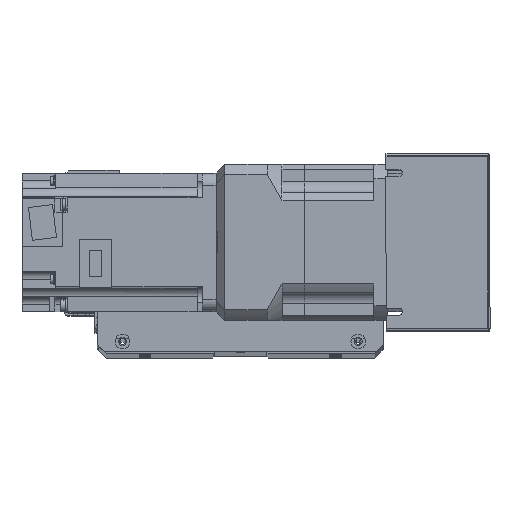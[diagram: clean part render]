
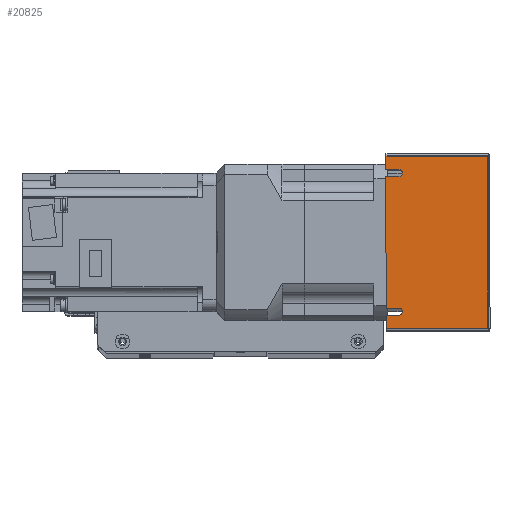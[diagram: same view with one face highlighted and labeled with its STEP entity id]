
A CAD part, top view. The second image highlights one B-rep face of the part: STEP entity #20825.
In plain terms, the highlighted planar face has unit normal (0, 0, 1) as drawn and (-1, 0, 0) by its records, which use the part's own axes.
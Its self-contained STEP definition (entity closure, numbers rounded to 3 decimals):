
#554=PLANE('',#22673);
#1642=LINE('',#33058,#3302);
#1648=LINE('',#33072,#3308);
#1660=LINE('',#33099,#3320);
#1670=LINE('',#33121,#3330);
#1678=LINE('',#33140,#3338);
#1679=LINE('',#33143,#3339);
#1680=LINE('',#33145,#3340);
#1681=LINE('',#33147,#3341);
#1682=LINE('',#33149,#3342);
#1683=LINE('',#33150,#3343);
#3302=VECTOR('',#26895,10.);
#3308=VECTOR('',#26905,10.);
#3320=VECTOR('',#26923,10.);
#3330=VECTOR('',#26937,10.);
#3338=VECTOR('',#26959,10.);
#3339=VECTOR('',#26962,10.);
#3340=VECTOR('',#26963,10.);
#3341=VECTOR('',#26964,10.);
#3342=VECTOR('',#26965,10.);
#3343=VECTOR('',#26966,10.);
#5356=FACE_OUTER_BOUND('',#6816,.T.);
#6816=EDGE_LOOP('',(#16208,#16209,#16210,#16211,#16212,#16213,#16214,#16215,
#16216,#16217,#16218,#16219));
#8258=CIRCLE('',#22669,2.);
#8261=CIRCLE('',#22674,2.);
#9699=VERTEX_POINT('',#33055);
#9700=VERTEX_POINT('',#33057);
#9705=VERTEX_POINT('',#33070);
#9706=VERTEX_POINT('',#33071);
#9717=VERTEX_POINT('',#33097);
#9718=VERTEX_POINT('',#33098);
#9727=VERTEX_POINT('',#33118);
#9728=VERTEX_POINT('',#33120);
#9733=VERTEX_POINT('',#33142);
#9734=VERTEX_POINT('',#33144);
#9735=VERTEX_POINT('',#33146);
#9736=VERTEX_POINT('',#33148);
#12055=EDGE_CURVE('',#9699,#9700,#1642,.T.);
#12061=EDGE_CURVE('',#9705,#9706,#1648,.T.);
#12073=EDGE_CURVE('',#9717,#9718,#1660,.T.);
#12083=EDGE_CURVE('',#9727,#9728,#1670,.T.);
#12086=EDGE_CURVE('',#9706,#9699,#8258,.T.);
#12095=EDGE_CURVE('',#9705,#9728,#1678,.T.);
#12096=EDGE_CURVE('',#9718,#9727,#8261,.T.);
#12097=EDGE_CURVE('',#9717,#9733,#1679,.T.);
#12098=EDGE_CURVE('',#9733,#9734,#1680,.T.);
#12099=EDGE_CURVE('',#9734,#9735,#1681,.T.);
#12100=EDGE_CURVE('',#9735,#9736,#1682,.T.);
#12101=EDGE_CURVE('',#9736,#9700,#1683,.T.);
#16208=ORIENTED_EDGE('',*,*,#12055,.F.);
#16209=ORIENTED_EDGE('',*,*,#12086,.F.);
#16210=ORIENTED_EDGE('',*,*,#12061,.F.);
#16211=ORIENTED_EDGE('',*,*,#12095,.T.);
#16212=ORIENTED_EDGE('',*,*,#12083,.F.);
#16213=ORIENTED_EDGE('',*,*,#12096,.F.);
#16214=ORIENTED_EDGE('',*,*,#12073,.F.);
#16215=ORIENTED_EDGE('',*,*,#12097,.T.);
#16216=ORIENTED_EDGE('',*,*,#12098,.T.);
#16217=ORIENTED_EDGE('',*,*,#12099,.T.);
#16218=ORIENTED_EDGE('',*,*,#12100,.T.);
#16219=ORIENTED_EDGE('',*,*,#12101,.T.);
#20825=ADVANCED_FACE('',(#5356),#554,.F.);
#22669=AXIS2_PLACEMENT_3D('',#33125,#26943,#26944);
#22673=AXIS2_PLACEMENT_3D('',#33139,#26957,#26958);
#22674=AXIS2_PLACEMENT_3D('',#33141,#26960,#26961);
#26895=DIRECTION('',(0.,0.,-1.));
#26905=DIRECTION('',(0.,0.,1.));
#26923=DIRECTION('',(0.,0.,1.));
#26937=DIRECTION('',(0.,0.,-1.));
#26943=DIRECTION('center_axis',(-1.,0.,0.));
#26944=DIRECTION('ref_axis',(0.,0.,1.));
#26957=DIRECTION('center_axis',(1.,0.,0.));
#26958=DIRECTION('ref_axis',(0.,-1.,0.));
#26959=DIRECTION('',(0.,-1.,0.));
#26960=DIRECTION('center_axis',(-1.,0.,0.));
#26961=DIRECTION('ref_axis',(0.,0.,1.));
#26962=DIRECTION('',(0.,-1.,0.));
#26963=DIRECTION('',(0.,0.,1.));
#26964=DIRECTION('',(0.,1.,0.));
#26965=DIRECTION('',(0.,0.,-1.));
#26966=DIRECTION('',(0.,-1.,0.));
#33055=CARTESIAN_POINT('',(-120.5,42.,-22.5));
#33057=CARTESIAN_POINT('',(-120.5,42.,-30.));
#33058=CARTESIAN_POINT('',(-120.5,42.,-16.304));
#33070=CARTESIAN_POINT('',(-120.5,38.,-30.));
#33071=CARTESIAN_POINT('',(-120.5,38.,-22.5));
#33072=CARTESIAN_POINT('',(-120.5,38.,-11.25));
#33097=CARTESIAN_POINT('',(-120.5,-42.,-30.));
#33098=CARTESIAN_POINT('',(-120.5,-42.,-22.5));
#33099=CARTESIAN_POINT('',(-120.5,-42.,-11.25));
#33118=CARTESIAN_POINT('',(-120.5,-38.,-22.5));
#33120=CARTESIAN_POINT('',(-120.5,-38.,-30.));
#33121=CARTESIAN_POINT('',(-120.5,-38.,-16.169));
#33125=CARTESIAN_POINT('Origin',(-120.5,40.,-22.5));
#33139=CARTESIAN_POINT('Origin',(-120.5,51.,0.));
#33140=CARTESIAN_POINT('',(-120.5,-51.,-30.));
#33141=CARTESIAN_POINT('Origin',(-120.5,-40.,-22.5));
#33142=CARTESIAN_POINT('',(-120.5,-50.,-30.));
#33143=CARTESIAN_POINT('',(-120.5,-51.,-30.));
#33144=CARTESIAN_POINT('',(-120.5,-50.,29.));
#33145=CARTESIAN_POINT('',(-120.5,-50.,0.));
#33146=CARTESIAN_POINT('',(-120.5,50.,29.));
#33147=CARTESIAN_POINT('',(-120.5,25.5,29.));
#33148=CARTESIAN_POINT('',(-120.5,50.,-30.));
#33149=CARTESIAN_POINT('',(-120.5,50.,0.));
#33150=CARTESIAN_POINT('',(-120.5,-51.,-30.));
